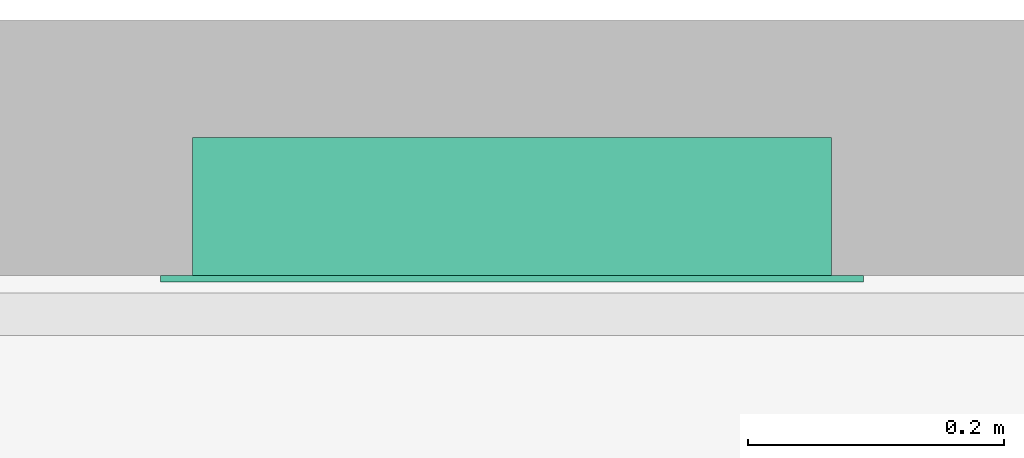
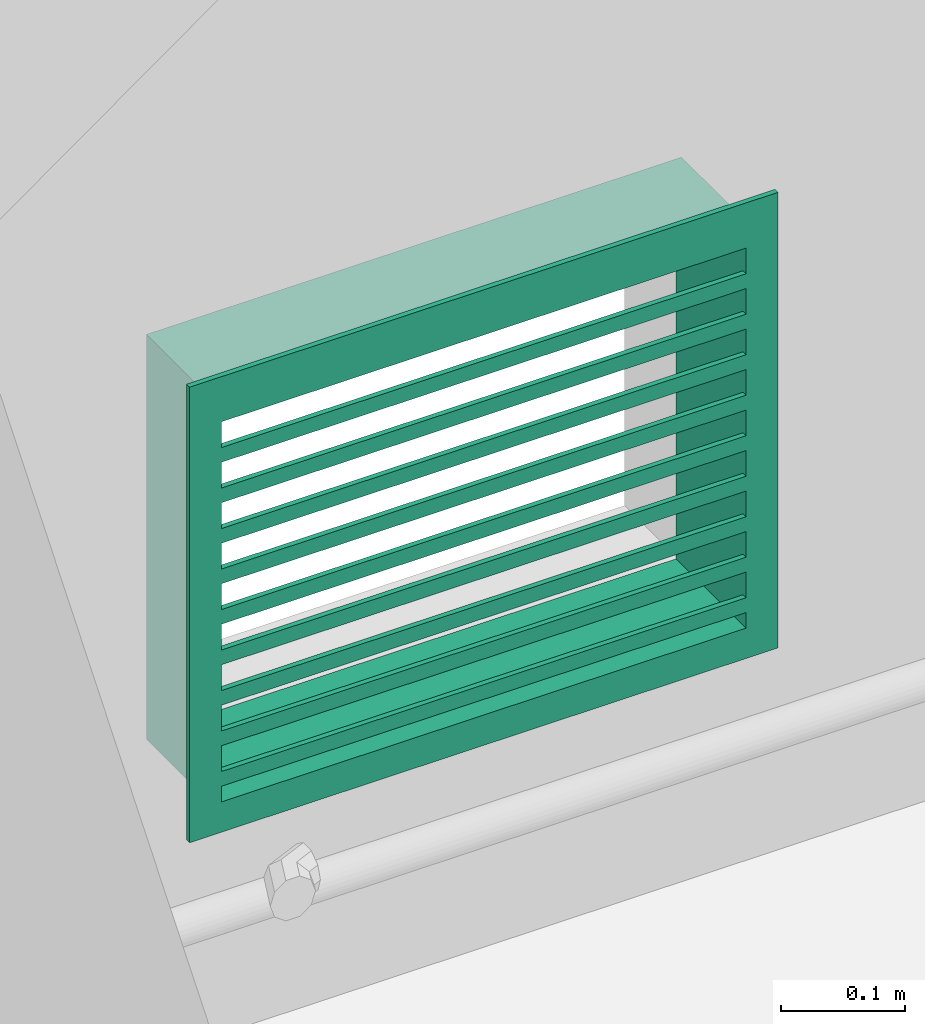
# One storey, part 76 of 94: 1 flow terminal.
"""IFC2X3 building model written with IfcOpenShell, lengths in millimetres."""

import ifcopenshell
import ifcopenshell.guid

model = None  # the IFC model being written
_history = None  # IfcOwnerHistory: only IFC2X3 demands one
_inside = {}  # id of a spatial element -> (the spatial element, [elements in it])
_under = {}  # id of a project, library or spatial element -> (it, [spatial elements below it])
_declared = {}  # id of a project -> (the project, [libraries it declares])
_typed = {}  # id of a type object -> (the type object, [elements of that type])
_made_of = {}  # id of a material, layer set ... -> (it, [elements and type objects made of it])


def new_model(schema):
    """Start an empty IFC model of exactly this schema.

    Asked for "IFC4X3", IfcOpenShell would pick the latest addendum, in which some entities
    have other attributes; the version numbers below select the first issue.
    IFC2X3 requires an IfcOwnerHistory on every rooted entity: one is made here for all.
    """
    global model, _history
    if schema == "IFC4X3":
        model = ifcopenshell.file(schema_version=(4, 3, 0, 0))
    else:
        model = ifcopenshell.file(schema=schema)
    _inside.clear()
    _under.clear()
    _declared.clear()
    _typed.clear()
    _made_of.clear()
    _history = None
    if model.schema == "IFC2X3":
        org = make("IfcOrganization", Name="unknown")
        user = make(
            "IfcPersonAndOrganization",
            ThePerson=make("IfcPerson", FamilyName="unknown"),
            TheOrganization=org,
        )
        app = make(
            "IfcApplication",
            ApplicationDeveloper=org,
            Version="unknown",
            ApplicationFullName="unknown",
            ApplicationIdentifier="unknown",
        )
        _history = make(
            "IfcOwnerHistory",
            OwningUser=user,
            OwningApplication=app,
            ChangeAction="ADDED",
            CreationDate=0,
        )
    return model


def make(cls, **values):
    """One entity of the class cls with the attributes given. An attribute that is None is left unset."""
    return model.create_entity(
        cls, **{name: value for name, value in values.items() if value is not None}
    )


def entity(cls, *values):
    """Any entity or typed value of the class cls, its attributes in the order of the schema. None: left unset."""
    e = model.create_entity(cls)
    for i, value in enumerate(values):
        if value is not None:
            e[i] = value
    return e


def rooted(cls, **values):
    """An entity with a GlobalId (a new one), such as an element, a storey or a relation."""
    return make(cls, GlobalId=ifcopenshell.guid.new(), OwnerHistory=_history, **values)


def si_unit(unit_type, name, prefix=None):
    """IfcSIUnit, for example si_unit("LENGTHUNIT", "METRE", prefix="MILLI")."""
    return make("IfcSIUnit", UnitType=unit_type, Prefix=prefix, Name=name)


def converted_unit(unit_type, name, factor, base, dimensions=None, offset=None):
    """IfcConversionBasedUnit, such as the inch: factor (a typed value) times the base unit."""
    return make(
        "IfcConversionBasedUnit"
        if offset is None
        else "IfcConversionBasedUnitWithOffset",
        ConversionOffset=offset,
        Dimensions=None
        if dimensions is None
        else entity("IfcDimensionalExponents", *dimensions),
        UnitType=unit_type,
        Name=name,
        ConversionFactor=make(
            "IfcMeasureWithUnit", ValueComponent=factor, UnitComponent=base
        ),
    )


def derived_unit(unit_type, elements):
    """IfcDerivedUnit: a product of units, each with its exponent."""
    return make(
        "IfcDerivedUnit",
        Elements=[
            make("IfcDerivedUnitElement", Unit=unit, Exponent=power)
            for unit, power in elements
        ],
        UnitType=unit_type,
    )


def assignment(units):
    """IfcUnitAssignment: the units of a project."""
    return None if units is None else make("IfcUnitAssignment", Units=units)


def point(xyz):
    """IfcCartesianPoint."""
    return None if xyz is None else make("IfcCartesianPoint", Coordinates=xyz)


def direction(xyz):
    """IfcDirection."""
    return None if xyz is None else make("IfcDirection", DirectionRatios=xyz)


def frame(location, z_axis=None, x_axis=None):
    """IfcAxis2Placement3D, a coordinate frame: its origin and axes. An axis left out is left unset."""
    return make(
        "IfcAxis2Placement3D",
        Location=point(location),
        Axis=direction(z_axis),
        RefDirection=direction(x_axis),
    )


def frame_2d(location, x_axis=None):
    """IfcAxis2Placement2D, a coordinate frame in the plane: its origin and x axis."""
    return make(
        "IfcAxis2Placement2D", Location=point(location), RefDirection=direction(x_axis)
    )


def origin():
    """The frame at (0, 0, 0) with its axes left unset."""
    return frame((0.0, 0.0, 0.0))


def origin_2d_with_axis():
    """The frame at (0, 0) in the plane with the x axis (1, 0) written out."""
    return frame_2d((0.0, 0.0), x_axis=(1.0, 0.0))


def place(relative_to, where):
    """IfcLocalPlacement: puts the frame where relative to a parent placement (None: the world)."""
    return make(
        "IfcLocalPlacement", PlacementRelTo=relative_to, RelativePlacement=where
    )


def context(
    kind, dimensions, precision=None, world=None, true_north=None, identifier=None
):
    """IfcGeometricRepresentationContext, for example the 3D "Model" context."""
    return make(
        "IfcGeometricRepresentationContext",
        ContextIdentifier=identifier,
        ContextType=kind,
        CoordinateSpaceDimension=dimensions,
        Precision=precision,
        WorldCoordinateSystem=world,
        TrueNorth=true_north,
    )


def subcontext(parent, identifier, kind, view, scale=None):
    """IfcGeometricRepresentationSubContext, for example "Body" below "Model"."""
    return make(
        "IfcGeometricRepresentationSubContext",
        ContextIdentifier=identifier,
        ContextType=kind,
        ParentContext=parent,
        TargetScale=scale,
        TargetView=view,
    )


def project(units=None, contexts=None):
    """IfcProject with its units and contexts."""
    return rooted(
        "IfcProject",
        Name="project",
        RepresentationContexts=contexts,
        UnitsInContext=assignment(units),
    )


def spatial(cls, under=None, at=None, **own):
    """A site, building, storey or space (cls), placed at a placement, below another one or the project."""
    s = rooted(cls, ObjectPlacement=at, **own)
    if under is not None:
        _under.setdefault(under.id(), (under, []))[1].append(s)
    return s


def polyline(points):
    """IfcPolyline through the points."""
    return make("IfcPolyline", Points=[point(p) for p in points])


def profile(cls, at=None, kind="AREA", **sizes):
    """A parametric profile (cls). Its sizes go by their IFC names, for example OverallWidth=200.0."""
    return make(cls, ProfileType=kind, Position=at, **sizes)


def rectangle(**sizes):
    """IfcRectangleProfileDef."""
    return profile("IfcRectangleProfileDef", **sizes)


def outline(outer, holes=None, kind="AREA"):
    """IfcArbitraryClosedProfileDef: a profile drawn as a closed curve; with holes, ...WithVoids."""
    if holes is None:
        return make("IfcArbitraryClosedProfileDef", ProfileType=kind, OuterCurve=outer)
    return make(
        "IfcArbitraryProfileDefWithVoids",
        ProfileType=kind,
        OuterCurve=outer,
        InnerCurves=holes,
    )


def extrude(swept, where, along, depth):
    """IfcExtrudedAreaSolid: the profile swept, set in the frame where, extruded along a direction by depth."""
    return make(
        "IfcExtrudedAreaSolid",
        SweptArea=swept,
        Position=where,
        ExtrudedDirection=direction(along),
        Depth=depth,
    )


def shape(context_of_items, identifier, shape_type, items):
    """IfcShapeRepresentation: the items that make up one representation, for example the "Body"."""
    return make(
        "IfcShapeRepresentation",
        ContextOfItems=context_of_items,
        RepresentationIdentifier=identifier,
        RepresentationType=shape_type,
        Items=items,
    )


def source(mapping_origin, context_of_items, identifier, shape_type, items):
    """IfcRepresentationMap: a shape defined once, which mapped items show again and again."""
    return make(
        "IfcRepresentationMap",
        MappingOrigin=mapping_origin,
        MappedRepresentation=shape(context_of_items, identifier, shape_type, items),
    )


def transform(
    local_origin,
    x_axis=None,
    y_axis=None,
    z_axis=None,
    scale=None,
    scale2=None,
    scale3=None,
    uniform=True,
):
    """IfcCartesianTransformationOperator3D, or its non-uniform kind. x_axis, y_axis, z_axis: its Axis1, 2, 3."""
    if uniform:
        return make(
            "IfcCartesianTransformationOperator3D",
            Axis1=direction(x_axis),
            Axis2=direction(y_axis),
            LocalOrigin=point(local_origin),
            Scale=scale,
            Axis3=direction(z_axis),
        )
    return make(
        "IfcCartesianTransformationOperator3DnonUniform",
        Axis1=direction(x_axis),
        Axis2=direction(y_axis),
        LocalOrigin=point(local_origin),
        Scale=scale,
        Axis3=direction(z_axis),
        Scale2=scale2,
        Scale3=scale3,
    )


def mapped(mapping_source, mapping_target):
    """IfcMappedItem: shows the shape of a source again, moved by a transform."""
    return make(
        "IfcMappedItem", MappingSource=mapping_source, MappingTarget=mapping_target
    )


def material(Name=None, Category=None):
    """IfcMaterial."""
    return make("IfcMaterial", Name=Name, Category=Category)


def material_list(materials):
    """IfcMaterialList."""
    return make("IfcMaterialList", Materials=materials)


def made_of(thing, what):
    """Note that an element or type object is made of a material, layer set ...; save() writes the relation."""
    if what is not None:
        _made_of.setdefault(what.id(), (what, []))[1].append(thing)
    return thing


def type_object(cls, material=None, **own):
    """A type object (cls), such as IfcWallType, which elements share."""
    return made_of(rooted(cls, **own), material)


def type_shapes(of_type, sources):
    """Give a type object the sources (RepresentationMaps) that its elements show as mapped items."""
    of_type.RepresentationMaps = sources


def element(
    cls,
    number,
    at=None,
    inside=None,
    cuts=None,
    type_object=None,
    material=None,
    context=None,
    identifier="Body",
    shape_type=None,
    held_by="IfcProductDefinitionShape",
    body=None,
    shapes=None,
    **own,
):
    """One element of the class cls, such as IfcWall. Its Tag is "e" and its number.

    at: its placement. inside: the storey or other place that contains it. cuts: it is an
    opening in that element (IfcRelVoidsElement). A single representation is given by context,
    identifier, shape_type and body (its items); several are given by shapes. held_by: the class
    of the entity that holds the representations. save() writes the other relations.
    """
    e = rooted(cls, Tag="e%d" % number, ObjectPlacement=at, **own)
    if body is not None:
        shapes = [shape(context, identifier, shape_type, body)]
    if shapes is not None:
        e.Representation = make(held_by, Representations=shapes)
    if inside is not None:
        _inside.setdefault(inside.id(), (inside, []))[1].append(e)
    if cuts is not None:
        rooted(
            "IfcRelVoidsElement", RelatingBuildingElement=cuts, RelatedOpeningElement=e
        )
    if type_object is not None:
        _typed.setdefault(type_object.id(), (type_object, []))[1].append(e)
    return made_of(e, material)


def aggregate(whole, parts):
    """IfcRelAggregates: a whole, such as a stair, and the parts it consists of."""
    return rooted("IfcRelAggregates", RelatingObject=whole, RelatedObjects=parts)


def save(model, path):
    """Write the relations noted so far, then the file.

    IfcRelAggregates (storeys below a building ...), IfcRelContainedInSpatialStructure (elements
    in a storey), IfcRelDefinesByType, IfcRelAssociatesMaterial and IfcRelDeclares: one each for
    every whole, place, type object, material and project.
    """
    for whole, parts in _under.values():
        aggregate(whole, parts)
    for where, things in _inside.values():
        rooted(
            "IfcRelContainedInSpatialStructure",
            RelatedElements=things,
            RelatingStructure=where,
        )
    for kind, things in _typed.values():
        rooted("IfcRelDefinesByType", RelatedObjects=things, RelatingType=kind)
    for what, things in _made_of.values():
        rooted("IfcRelAssociatesMaterial", RelatedObjects=things, RelatingMaterial=what)
    for by, libraries in _declared.values():
        rooted("IfcRelDeclares", RelatingContext=by, RelatedDefinitions=libraries)
    model.write(path)


model = new_model("IFC2X3")

# Units and contexts
model_context = context("Model", 3, precision=0.01, world=origin(), true_north=direction((6.123031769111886e-17, 1.0)))
body_context = subcontext(model_context, "Body", "Model", "MODEL_VIEW")
ifc_project = project(units=[si_unit("LENGTHUNIT", "METRE", prefix="MILLI"), si_unit("AREAUNIT", "SQUARE_METRE"), si_unit("VOLUMEUNIT", "CUBIC_METRE"), converted_unit("PLANEANGLEUNIT", "DEGREE", entity("IfcRatioMeasure", 0.017453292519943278), si_unit("PLANEANGLEUNIT", "RADIAN"), dimensions=[0, 0, 0, 0, 0, 0, 0]), si_unit("MASSUNIT", "GRAM", prefix="KILO"), derived_unit("MASSDENSITYUNIT", [(si_unit("MASSUNIT", "GRAM", prefix="KILO"), 1), (si_unit("LENGTHUNIT", "METRE"), -3)]), derived_unit("IONCONCENTRATIONUNIT", [(si_unit("MASSUNIT", "GRAM", prefix="KILO"), 1), (si_unit("LENGTHUNIT", "METRE"), -3)]), derived_unit("MOMENTOFINERTIAUNIT", [(si_unit("LENGTHUNIT", "METRE"), 4)]), si_unit("TIMEUNIT", "SECOND"), si_unit("FREQUENCYUNIT", "HERTZ"), si_unit("THERMODYNAMICTEMPERATUREUNIT", "DEGREE_CELSIUS"), derived_unit("THERMALTRANSMITTANCEUNIT", [(si_unit("MASSUNIT", "GRAM", prefix="KILO"), 1), (si_unit("THERMODYNAMICTEMPERATUREUNIT", "KELVIN"), -1), (si_unit("TIMEUNIT", "SECOND"), -3)]), derived_unit("THERMALCONDUCTANCEUNIT", [(si_unit("MASSUNIT", "GRAM", prefix="KILO"), 1), (si_unit("THERMODYNAMICTEMPERATUREUNIT", "KELVIN"), -1), (si_unit("TIMEUNIT", "SECOND"), -3), (si_unit("LENGTHUNIT", "METRE"), 1)]), derived_unit("VOLUMETRICFLOWRATEUNIT", [(si_unit("LENGTHUNIT", "METRE"), 3), (si_unit("TIMEUNIT", "SECOND"), -1)]), derived_unit("MASSFLOWRATEUNIT", [(si_unit("MASSUNIT", "GRAM", prefix="KILO"), 1), (si_unit("TIMEUNIT", "SECOND"), -1)]), derived_unit("ROTATIONALFREQUENCYUNIT", [(si_unit("TIMEUNIT", "SECOND"), -1)]), si_unit("ELECTRICCURRENTUNIT", "AMPERE"), si_unit("ELECTRICVOLTAGEUNIT", "VOLT"), si_unit("POWERUNIT", "WATT"), si_unit("FORCEUNIT", "NEWTON", prefix="KILO"), si_unit("ILLUMINANCEUNIT", "LUX"), si_unit("LUMINOUSFLUXUNIT", "LUMEN"), si_unit("LUMINOUSINTENSITYUNIT", "CANDELA"), derived_unit("USERDEFINED", [(si_unit("MASSUNIT", "GRAM", prefix="KILO"), -1), (si_unit("LENGTHUNIT", "METRE"), -2), (si_unit("TIMEUNIT", "SECOND"), 3), (si_unit("LUMINOUSFLUXUNIT", "LUMEN"), 1)]), derived_unit("USERDEFINED", [(si_unit("MASSUNIT", "GRAM", prefix="KILO"), 1), (si_unit("TIMEUNIT", "SECOND"), -3), (si_unit("LENGTHUNIT", "METRE"), 3), (si_unit("ELECTRICCURRENTUNIT", "AMPERE"), -2)]), derived_unit("SOUNDPOWERUNIT", [(si_unit("MASSUNIT", "GRAM", prefix="KILO"), 1), (si_unit("TIMEUNIT", "SECOND"), -3), (si_unit("LENGTHUNIT", "METRE"), 2)]), derived_unit("SOUNDPRESSUREUNIT", [(si_unit("MASSUNIT", "GRAM", prefix="KILO"), 1), (si_unit("LENGTHUNIT", "METRE"), -1), (si_unit("TIMEUNIT", "SECOND"), -2)]), derived_unit("LINEARVELOCITYUNIT", [(si_unit("LENGTHUNIT", "METRE"), 1), (si_unit("TIMEUNIT", "SECOND"), -1)]), si_unit("PRESSUREUNIT", "PASCAL"), derived_unit("USERDEFINED", [(si_unit("MASSUNIT", "GRAM", prefix="KILO"), 1), (si_unit("LENGTHUNIT", "METRE"), -2), (si_unit("TIMEUNIT", "SECOND"), -2)]), derived_unit("LINEARFORCEUNIT", [(si_unit("MASSUNIT", "GRAM", prefix="KILO"), 1), (si_unit("TIMEUNIT", "SECOND"), -2)]), derived_unit("PLANARFORCEUNIT", [(si_unit("MASSUNIT", "GRAM", prefix="KILO"), 1), (si_unit("LENGTHUNIT", "METRE"), -1), (si_unit("TIMEUNIT", "SECOND"), -2)]), derived_unit("SPECIFICHEATCAPACITYUNIT", [(si_unit("THERMODYNAMICTEMPERATUREUNIT", "KELVIN"), -1), (si_unit("LENGTHUNIT", "METRE"), 2), (si_unit("TIMEUNIT", "SECOND"), -2)]), derived_unit("HEATINGVALUEUNIT", [(si_unit("LENGTHUNIT", "METRE"), 2), (si_unit("TIMEUNIT", "SECOND"), -2)]), derived_unit("VAPORPERMEABILITYUNIT", [(si_unit("LENGTHUNIT", "METRE"), -1), (si_unit("TIMEUNIT", "SECOND"), 1)]), derived_unit("DYNAMICVISCOSITYUNIT", [(si_unit("MASSUNIT", "GRAM", prefix="KILO"), 1), (si_unit("TIMEUNIT", "SECOND"), -1), (si_unit("LENGTHUNIT", "METRE"), -1)]), derived_unit("THERMALEXPANSIONCOEFFICIENTUNIT", [(si_unit("THERMODYNAMICTEMPERATUREUNIT", "KELVIN"), -1)]), derived_unit("MODULUSOFELASTICITYUNIT", [(si_unit("MASSUNIT", "GRAM", prefix="KILO"), 1), (si_unit("LENGTHUNIT", "METRE"), -1), (si_unit("TIMEUNIT", "SECOND"), -2)]), derived_unit("ISOTHERMALMOISTURECAPACITYUNIT", [(si_unit("LENGTHUNIT", "METRE"), 3), (si_unit("MASSUNIT", "GRAM", prefix="KILO"), -1)]), derived_unit("MOISTUREDIFFUSIVITYUNIT", [(si_unit("TIMEUNIT", "SECOND"), -1), (si_unit("LENGTHUNIT", "METRE"), 2)])], contexts=[model_context])

# Site, building, storey
site_placement = place(None, origin())
site = spatial("IfcSite", under=ifc_project, at=site_placement, Name="Default", CompositionType="ELEMENT")
building_placement = place(site_placement, origin())
building = spatial("IfcBuilding", under=site, at=building_placement, CompositionType="ELEMENT")
storey_placement = place(building_placement, origin())
storey = spatial("IfcBuildingStorey", under=building, at=storey_placement, Name="Niveau 0", CompositionType="ELEMENT", Elevation=0.0)

# Flow terminal
ifc_material_1 = material(Name="Color RGB 153-152-151")
ifc_material_2 = material(Name="Color RGB 245-245-245")
ifc_material_3 = material(Name="Color RGB 078-078-078")
ifc_material_list = material_list([ifc_material_1, ifc_material_2, ifc_material_3])
air_terminal_type = type_object("IfcAirTerminalType", Name="Grille Entrée d'air Chaufferie:THIS IS A TYPE CATALOG FAMILY", PredefinedType="GRILLE", material=ifc_material_list)
shared_shape = source(origin(), body_context, "Body", "SweptSolid", [
    extrude(rectangle(XDim=5.000000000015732, YDim=490.0000000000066, at=origin_2d_with_axis()), frame((56.50000000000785, 0.0, -179.58614558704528), z_axis=(0.0, 0.0, 1.0), x_axis=(-1.0, 0.0, 0.0)), (0.0, 0.0, 1.0), 14.586145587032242),
    extrude(rectangle(XDim=5.000000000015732, YDim=490.0000000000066, at=origin_2d_with_axis()), frame((56.50000000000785, 0.0, -139.5861455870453), z_axis=(0.0, 0.0, 1.0), x_axis=(-1.0, 0.0, 0.0)), (0.0, 0.0, 1.0), 14.586145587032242),
    extrude(rectangle(XDim=5.000000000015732, YDim=490.0000000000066, at=origin_2d_with_axis()), frame((56.50000000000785, 0.0, -99.58614558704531), z_axis=(0.0, 0.0, 1.0), x_axis=(-1.0, 0.0, 0.0)), (0.0, 0.0, 1.0), 14.586145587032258),
    extrude(rectangle(XDim=5.000000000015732, YDim=490.0000000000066, at=origin_2d_with_axis()), frame((56.50000000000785, 0.0, -59.586145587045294), z_axis=(0.0, 0.0, 1.0), x_axis=(-1.0, 0.0, 0.0)), (0.0, 0.0, 1.0), 14.586145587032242),
    extrude(rectangle(XDim=5.000000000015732, YDim=490.0000000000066, at=origin_2d_with_axis()), frame((56.50000000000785, 0.0, -19.58614558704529), z_axis=(0.0, 0.0, 1.0), x_axis=(-1.0, 0.0, 0.0)), (0.0, 0.0, 1.0), 14.586145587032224),
    extrude(rectangle(XDim=5.000000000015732, YDim=490.0000000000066, at=origin_2d_with_axis()), frame((56.50000000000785, 0.0, 20.413854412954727), z_axis=(0.0, 0.0, 1.0), x_axis=(-1.0, 0.0, 0.0)), (0.0, 0.0, 1.0), 14.586145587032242),
    extrude(rectangle(XDim=5.000000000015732, YDim=490.0000000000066, at=origin_2d_with_axis()), frame((56.50000000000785, 0.0, 60.41385441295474), z_axis=(0.0, 0.0, 1.0), x_axis=(-1.0, 0.0, 0.0)), (0.0, 0.0, 1.0), 14.586145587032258),
    extrude(rectangle(XDim=5.000000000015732, YDim=490.0000000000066, at=origin_2d_with_axis()), frame((56.50000000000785, 0.0, 100.41385441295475), z_axis=(0.0, 0.0, 1.0), x_axis=(-1.0, 0.0, 0.0)), (0.0, 0.0, 1.0), 14.586145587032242),
    extrude(rectangle(XDim=5.000000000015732, YDim=490.0000000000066, at=origin_2d_with_axis()), frame((56.50000000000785, 0.0, 140.41385441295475), z_axis=(0.0, 0.0, 1.0), x_axis=(-1.0, 0.0, 0.0)), (0.0, 0.0, 1.0), 14.586145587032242),
    extrude(rectangle(XDim=5.000000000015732, YDim=490.0000000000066, at=origin_2d_with_axis()), frame((56.50000000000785, 0.0, 180.41385441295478), z_axis=(0.0, 0.0, 1.0), x_axis=(-1.0, 0.0, 0.0)), (0.0, 0.0, 1.0), 14.586145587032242),
    extrude(outline(polyline([(-225.0, -275.0), (225.0, -275.0), (225.0, 275.0), (-225.0, 275.0), (-225.0, -275.0)]), holes=[polyline([(-195.0, -245.0), (-195.0, 245.0), (195.0, 245.0), (195.0, -245.0), (-195.0, -245.0)])]), frame((54.0, 0.0, 0.0), z_axis=(1.0, 0.0, 0.0), x_axis=(0.0, 0.0, -1.0)), (0.0, 0.0, 1.0), 5.000000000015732),
    extrude(outline(polyline([(-200.0, -250.0), (200.0, -250.0), (200.0, 250.0), (-200.0, 250.0), (-200.0, -250.0)]), holes=[polyline([(-195.0, -245.0), (-195.0, 245.0), (195.0, 245.0), (195.0, -245.0), (-195.0, -245.0)])]), frame((-54.0, 0.0, 0.0), z_axis=(1.0, 0.0, 0.0), x_axis=(0.0, 0.0, -1.0)), (0.0, 0.0, 1.0), 107.99999999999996),
])
type_shapes(air_terminal_type, [shared_shape])
flow_terminal_placement = place(storey_placement, frame((-13262.933412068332, 10151.470546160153, 428.1991194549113), z_axis=(0.0, 0.0, 1.0), x_axis=(0.0, -1.0, 0.0)))
element("IfcFlowTerminal", 1, at=flow_terminal_placement, inside=storey, type_object=air_terminal_type, material=ifc_material_list, Name="Grille Entrée d'air Chaufferie:THIS IS A TYPE CATALOG FAMILY", ObjectType="Grille Entrée d'air Chaufferie:THIS IS A TYPE CATALOG FAMILY", context=body_context, shape_type="MappedRepresentation", body=[
    mapped(shared_shape, transform((0.0, 0.0, 0.0), scale=1.0)),
])

save(model, "model.ifc")
